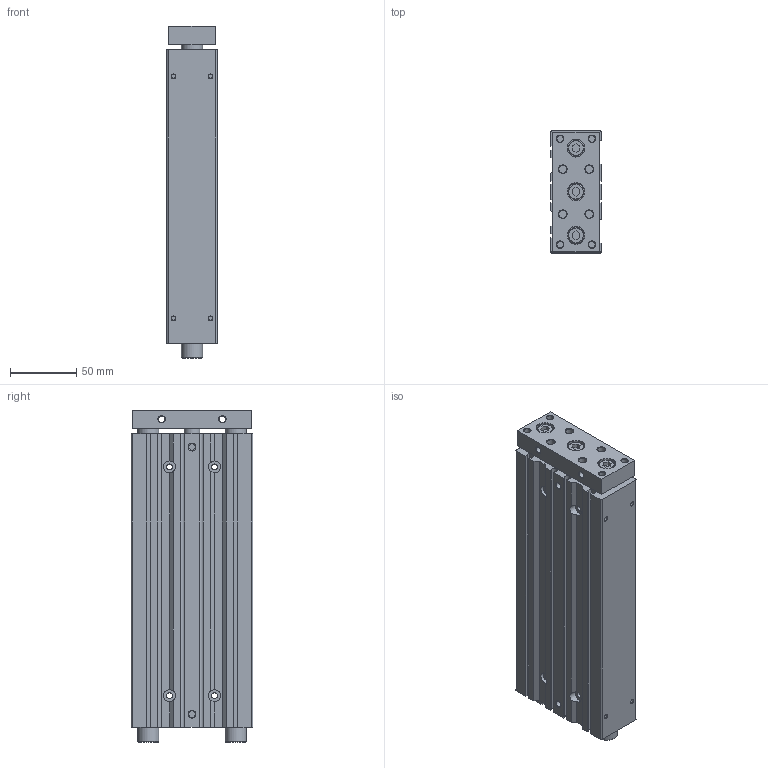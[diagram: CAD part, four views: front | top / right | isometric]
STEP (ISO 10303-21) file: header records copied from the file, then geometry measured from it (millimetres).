
FILE_DESCRIPTION((''),'2;1');
FILE_NAME('I:\3D電子目錄\氣缸\TB(U)\TB(U)25\TB(U)25\TB(U)25x175.stp','2007-08-06T08:24:20',('Administrator'),(''),'Autodesk Inventor 2008','Autodesk Inventor 2008','');
FILE_SCHEMA(('AUTOMOTIVE_DESIGN { 1 0 10303 214 1 1 1 1 }'));
Length unit declared in the file: millimetre
Products named in the file (1): TB(U)25X175
Bounding box: 38 x 92 x 251 mm (x, y, z)
Volume: 760526.1 mm3; surface area: 100687.8 mm2
Topology: 1 solids, 1 shells, 214 faces, 500 edges, 318 vertices
Faces by surface type: plane 104, cylinder 48, cone 39, bspline 20, torus 3
Full cylindrical faces by diameter (mm): 3 x4, 4.4 x4, 5 x6, 6 x8, 9 x4, 12 x4, 13 x3, 16 x4, 21 x2, 28 x1
Entity records: 5814 total; most frequent: CARTESIAN_POINT 1133, DIRECTION 968, ORIENTED_EDGE 808, EDGE_CURVE 404, AXIS2_PLACEMENT_3D 369, EDGE_LOOP 368, VERTEX_POINT 314, VECTOR 230
